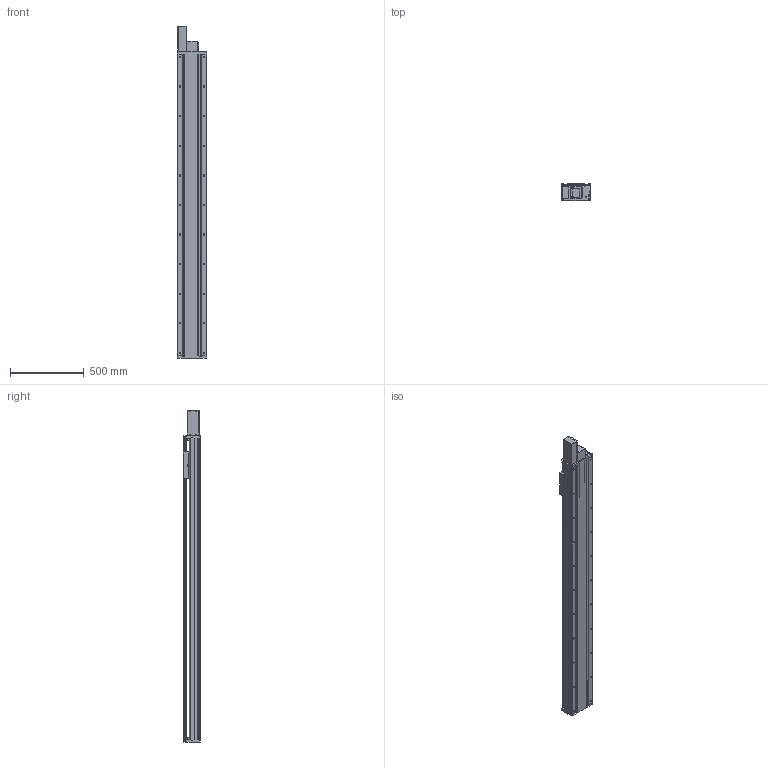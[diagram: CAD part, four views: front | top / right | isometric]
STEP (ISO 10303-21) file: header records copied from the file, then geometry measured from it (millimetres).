
FILE_DESCRIPTION(/* description */ (''),/* implementation_level */ '2;1');
FILE_NAME(/* name */ 'TKB200-FR-1800_asm1.stp',/* time_stamp */ '2016-05-18T11:22:29+08:00',/* author */ (''),/* organization */ (''),/* preprocessor_version */ 'ST-DEVELOPER v15',/* originating_system */ 'SIEMENS PLM Software NX 8.5',/* authorisation */ '');
FILE_SCHEMA (('AUTOMOTIVE_DESIGN { 1 0 10303 214 3 1 1 1 }'));
Length unit declared in the file: millimetre
Products named in the file (3): 200-2; 200-1; TKB200-FR-1800_asm1
Assembly tree (2 placements, depth 2):
  TKB200-FR-1800_asm1
    200-1
    200-2
Bounding box: 200 x 115 x 2245 mm (x, y, z)
Volume: 12788058.1 mm3; surface area: 4089355.2 mm2
Topology: 2 solids, 3 shells, 1079 faces, 3117 edges, 2009 vertices
Faces by surface type: cylinder 514, plane 479, cone 70, bspline 16
Full cylindrical faces by diameter (mm): 2.5 x2, 3.3 x16, 4.3 x4, 4.5 x8, 5 x2, 6.6 x34, 6.8 x8, 8 x6, 9 x30, 10 x4, 11 x22, 12 x16, 14 x22, 75 x1
Entity records: 38022 total; most frequent: CARTESIAN_POINT 10689, DIRECTION 5547, ORIENTED_EDGE 5530, EDGE_CURVE 2765, AXIS2_PLACEMENT_3D 2020, VERTEX_POINT 1904, LINE 1507, VECTOR 1507
